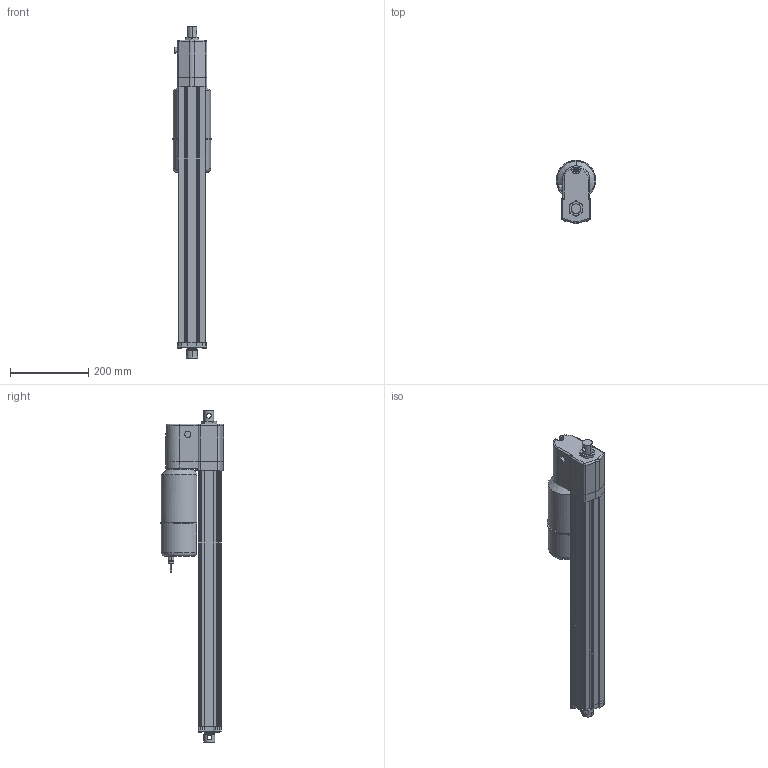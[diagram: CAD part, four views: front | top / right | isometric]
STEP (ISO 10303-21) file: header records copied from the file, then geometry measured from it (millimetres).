
FILE_DESCRIPTION (( 'STEP AP214' ), '1' );
FILE_NAME ('AA22-05B65M-50M0NPO-tollo.step', '2020-04-14T18:53:25', ( '' ), ( '' ), 'SwSTEP 2.0', 'SolidWorks 2010', '' );
FILE_SCHEMA (( 'AUTOMOTIVE_DESIGN' ));
Length unit declared in the file: millimetre
Products named in the file (8): Electrak-LA24-Motor-AA22-05B65M-50M0NPO-tollo_Electrak-LA24-Motor-AA22-05B65M-50M0NPO-tollo; Electrak-LA24-Rear-AA22-05B65M-50M0NPO-tollo_Electrak-LA24-Rear-AA22-05B65M-50M0NPO-tollo; Electrak-LA24-Tube-AA22-05B65M-50M0NPO-tollo_Electrak-LA24-Tube-AA22-05B65M-50M0NPO-tollo; Electrak-LA24-Rod-AA22-05B65M-50M0NPO-tollo_Electrak-LA24-Rod-AA22-05B65M-50M0NPO-tollo; Electrak-LA24-Plate-AA22-05B65M-50M0NPO-tollo_Electrak-LA24-Plate-AA22-05B65M-50M0NPO-tollo; Screw-MFX-H-M5_Screw-MFX-H-M5x24H; Screw-M6S-M5-AA22-05B65M-50M0NPO-tollo_Screw-M6S-M5-AA22-05B65M-50M0NPO-tollo; AA22-05B65M-50M0NPO-tollo
Assembly tree (10 placements, depth 2):
  AA22-05B65M-50M0NPO-tollo
    Electrak-LA24-Tube-AA22-05B65M-50M0NPO-tollo_Electrak-LA24-Tube-AA22-05B65M-50M0NPO-tollo
    Screw-M6S-M5-AA22-05B65M-50M0NPO-tollo_Screw-M6S-M5-AA22-05B65M-50M0NPO-tollo  x4
    Electrak-LA24-Plate-AA22-05B65M-50M0NPO-tollo_Electrak-LA24-Plate-AA22-05B65M-50M0NPO-tollo
    Electrak-LA24-Motor-AA22-05B65M-50M0NPO-tollo_Electrak-LA24-Motor-AA22-05B65M-50M0NPO-tollo
    Electrak-LA24-Rear-AA22-05B65M-50M0NPO-tollo_Electrak-LA24-Rear-AA22-05B65M-50M0NPO-tollo
    Electrak-LA24-Rod-AA22-05B65M-50M0NPO-tollo_Electrak-LA24-Rod-AA22-05B65M-50M0NPO-tollo
    Screw-MFX-H-M5_Screw-MFX-H-M5x24H
Bounding box: 100.99 x 162.5 x 850.7 mm (x, y, z)
Volume: 3734297.8 mm3; surface area: 598239.7 mm2
Topology: 10 solids, 10 shells, 432 faces, 1077 edges, 685 vertices
Faces by surface type: cylinder 178, plane 175, cone 58, torus 16, bspline 3, sphere 2
Entity records: 11619 total; most frequent: CARTESIAN_POINT 2735, DIRECTION 1825, ORIENTED_EDGE 1714, EDGE_CURVE 857, AXIS2_PLACEMENT_3D 668, VERTEX_POINT 550, VECTOR 489, LINE 489
